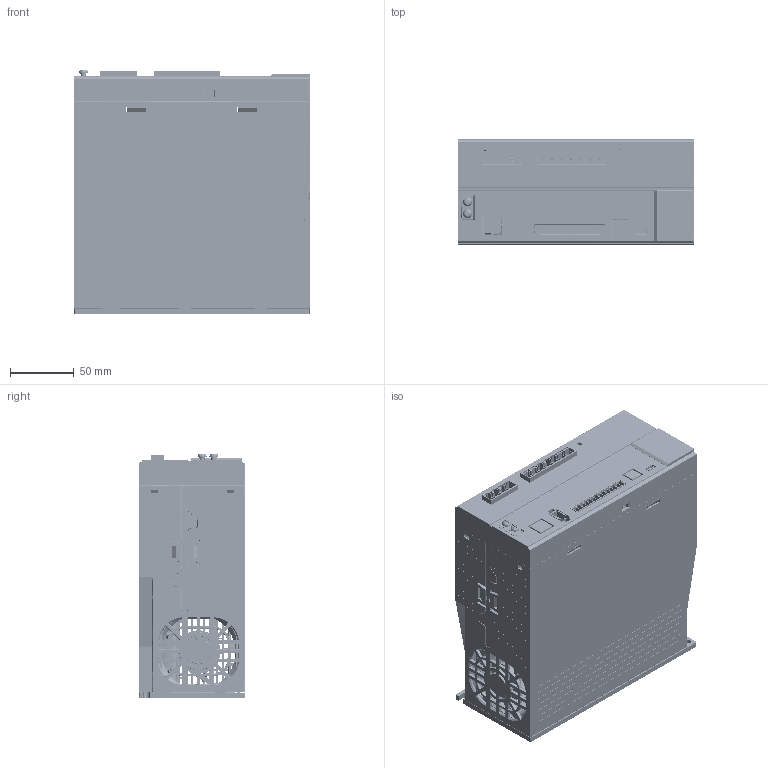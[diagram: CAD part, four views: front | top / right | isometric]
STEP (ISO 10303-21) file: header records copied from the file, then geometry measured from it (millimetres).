
FILE_DESCRIPTION(/* description */ (''),/* implementation_level */ '2;1');
FILE_NAME(/* name */ 'DS5L1-43P0+42P3+22P3+21P5+22P6-PTA-官网图',/* time_stamp */ '2023-04-08T12:59:12+08:00',/* author */ (''),/* organization */ (''),/* preprocessor_version */ 'ST-DEVELOPER v15',/* originating_system */ '',/* authorisation */ '');
FILE_SCHEMA (('AUTOMOTIVE_DESIGN'));
Products named in the file (1): Document
Bounding box: 185.53 x 83.2 x 192.07 mm (x, y, z)
Surface area: 369229.1 mm2
Topology: 1 solids, 12932 shells, 12943 faces, 69241 edges, 68822 vertices
Faces by surface type: bspline 7388, plane 5555
Entity records: 900181 total; most frequent: CARTESIAN_POINT 539121, ORIENTED_EDGE 68872, EDGE_CURVE 68848, VERTEX_POINT 68824, B_SPLINE_CURVE_WITH_KNOTS 57274, EDGE_LOOP 13951, ADVANCED_FACE 12942, FACE_OUTER_BOUND 12942
